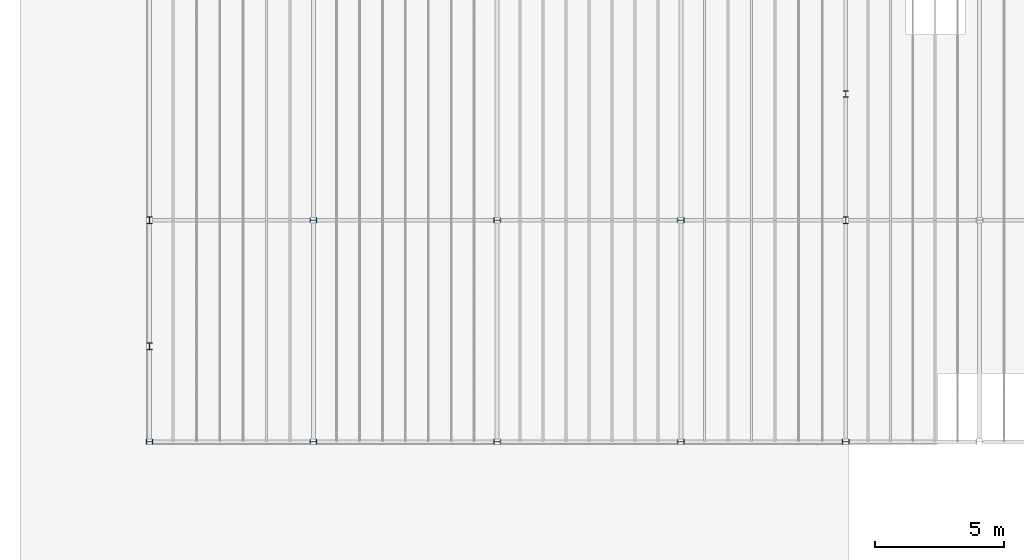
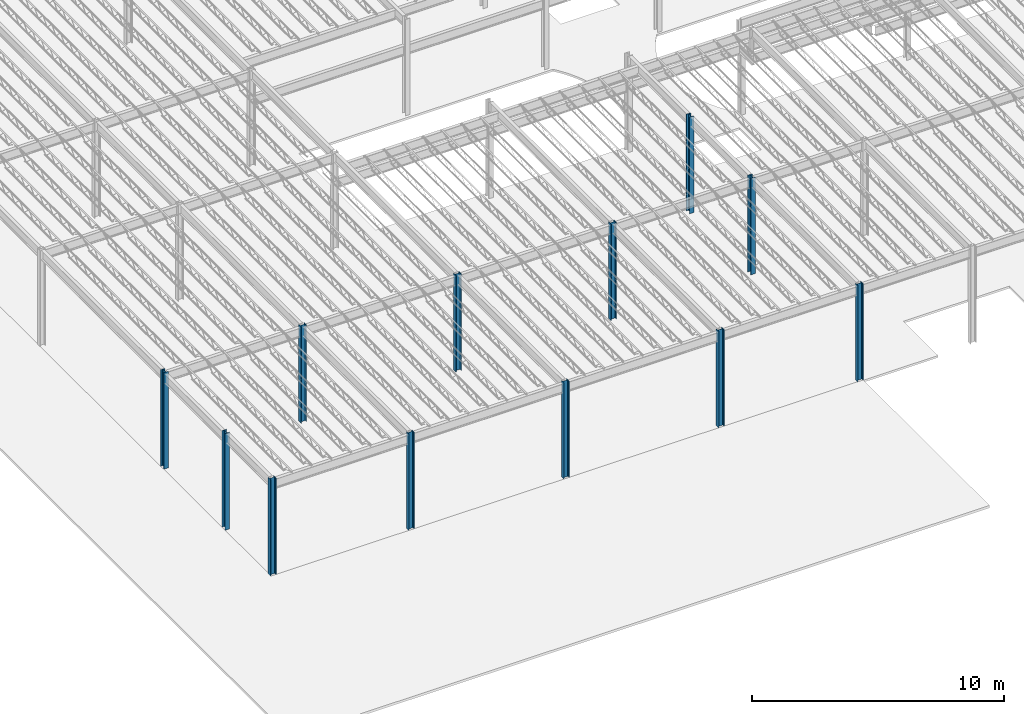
# One storey, part 1 of 119: 12 columns.
"""IFC2X3 building model written with IfcOpenShell, lengths in metres."""

from ifc_helpers import new_model, entity, si_unit, converted_unit, frame, frame_2d, origin, place, context, project, spatial, polyline, circle_curve, parameter, trimmed, segment, composite_curve, outline, extrude, source, transform, mapped, material, type_object, type_shapes, element, save


model = new_model("IFC2X3")

# Units and contexts
model_context = context("Model", 3, precision=1e-09, world=origin())
plan_context = context("Plan", 3, precision=1e-09, world=origin())
ifc_project = project(units=[si_unit("LENGTHUNIT", "METRE"), si_unit("AREAUNIT", "SQUARE_METRE"), si_unit("VOLUMEUNIT", "CUBIC_METRE"), converted_unit("PLANEANGLEUNIT", "DEGREE", entity("IfcRatioMeasure", 0.01745329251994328), si_unit("PLANEANGLEUNIT", "RADIAN"), dimensions=[0, 0, 0, 0, 0, 0, 0]), si_unit("TIMEUNIT", "SECOND")], contexts=[model_context, plan_context])

# Site, building, storey
site_placement = place(None, origin())
site = spatial("IfcSite", under=ifc_project, at=site_placement, Name="Default", CompositionType="ELEMENT")
building_placement = place(site_placement, origin())
building = spatial("IfcBuilding", under=site, at=building_placement, CompositionType="ELEMENT")
storey_placement = place(building_placement, frame((0.0, 0.0, 4.570000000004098)))
storey = spatial("IfcBuildingStorey", under=building, at=storey_placement, Name="Second Floor", CompositionType="ELEMENT", Elevation=4.570000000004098)

# Columns
ifc_material = material(Name="Metal - Steel - 345 MPa")
column_type = type_object("IfcColumnType", Name="W250X67", PredefinedType="COLUMN")
shared_shape = source(origin(), model_context, "Body", "SweptSolid", [
    extrude(outline(composite_curve([segment(polyline([(-0.102, -0.1285), (0.102, -0.1285)]), True, "CONTINUOUS"), segment(polyline([(0.102, -0.1285), (0.102, -0.1128)]), True, "CONTINUOUS"), segment(polyline([(0.102, -0.1128), (0.02174999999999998, -0.1128)]), True, "CONTINUOUS"), segment(trimmed(circle_curve(frame_2d((0.02174999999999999, -0.09549999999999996), x_axis=(-1.0, 0.0)), 0.0173), [parameter(4.071109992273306e-13)], [parameter(90.00000000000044)], True, "PARAMETER"), False, "CONTINUOUS"), segment(polyline([(0.004449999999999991, -0.09549999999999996), (0.004449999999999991, 0.09549999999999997)]), True, "CONTINUOUS"), segment(trimmed(circle_curve(frame_2d((0.02174999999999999, 0.09549999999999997), x_axis=(-1.0, 0.0)), 0.0173), [parameter(270.0000000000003)], [parameter(3.562221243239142e-13)], True, "PARAMETER"), False, "CONTINUOUS"), segment(polyline([(0.02174999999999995, 0.1128), (0.102, 0.1128)]), True, "CONTINUOUS"), segment(polyline([(0.102, 0.1128), (0.102, 0.1285)]), True, "CONTINUOUS"), segment(polyline([(0.102, 0.1285), (-0.102, 0.1285)]), True, "CONTINUOUS"), segment(polyline([(-0.102, 0.1285), (-0.102, 0.1128)]), True, "CONTINUOUS"), segment(polyline([(-0.102, 0.1128), (-0.02174999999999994, 0.1128)]), True, "CONTINUOUS"), segment(trimmed(circle_curve(frame_2d((-0.02175000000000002, 0.09549999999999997), x_axis=(-1.0, 0.0)), 0.0173), [parameter(179.9999999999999)], [parameter(269.9999999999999)], True, "PARAMETER"), False, "CONTINUOUS"), segment(polyline([(-0.004450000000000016, 0.09550000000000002), (-0.004450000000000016, -0.09549999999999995)]), True, "CONTINUOUS"), segment(trimmed(circle_curve(frame_2d((-0.02175000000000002, -0.09549999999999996), x_axis=(-1.0, 0.0)), 0.0173), [parameter(90.00000000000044)], [parameter(180.0000000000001)], True, "PARAMETER"), False, "CONTINUOUS"), segment(polyline([(-0.02175000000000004, -0.1128), (-0.102, -0.1128)]), True, "CONTINUOUS"), segment(polyline([(-0.102, -0.1128), (-0.102, -0.1285)]), True, "CONTINUOUS")], self_intersect=False)), frame((0.0, 0.0, 4.570000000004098), z_axis=(0.0, 0.0, 1.0), x_axis=(-1.0, 0.0, 0.0)), (0.0, 0.0, 1.0), 4.679999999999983),
])
type_shapes(column_type, [shared_shape])
column_1_placement = place(storey_placement, frame((-47.0, 13.73439520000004, -4.570000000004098)))
element("IfcColumn", 1, at=column_1_placement, inside=storey, type_object=column_type, material=ifc_material, Name="M_W-Wide Flange-Column:W250X67:W250X67", ObjectType="W250X67", context=model_context, shape_type="MappedRepresentation", body=[
    mapped(shared_shape, transform((0.0, 0.0, 0.0), scale=1.0)),
])
for number, where, z_axis, x_axis in (
    (2, (-40.66000000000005, 18.61000000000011, -4.570000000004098), (0.0, 0.0, 1.0), (0.0, 1.0, 0.0)),
    (3, (-40.66000000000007, 10.04000000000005, -4.570000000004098), (0.0, 0.0, 1.0), (0.0, -1.0, 0.0)),
    (4, (-20.06000000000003, 10.03999999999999, -4.570000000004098), (0.0, 0.0, 1.0), (0.0, -1.0, 0.0)),
    (5, (-33.55000000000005, 18.61000000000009, -4.570000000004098), (0.0, 0.0, 1.0), (0.0, 1.0, 0.0)),
):
    element("IfcColumn", number, at=place(storey_placement, frame(where, z_axis=z_axis, x_axis=x_axis)), inside=storey, type_object=column_type, material=ifc_material, Name="M_W-Wide Flange-Column:W250X67:W250X67", ObjectType="W250X67", context=model_context, shape_type="MappedRepresentation", body=[
        mapped(shared_shape, transform((0.0, 0.0, 0.0), scale=1.0)),
    ])
column_2_placement = place(storey_placement, frame((-20.06000000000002, 18.61000000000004, -4.570000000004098)))
element("IfcColumn", 6, at=column_2_placement, inside=storey, type_object=column_type, material=ifc_material, Name="M_W-Wide Flange-Column:W250X67:W250X67", ObjectType="W250X67", context=model_context, shape_type="MappedRepresentation", body=[
    mapped(shared_shape, transform((0.0, 0.0, 0.0), scale=1.0)),
])
column_3_placement = place(storey_placement, frame((-33.55000000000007, 10.04000000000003, -4.570000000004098), z_axis=(0.0, 0.0, 1.0), x_axis=(0.0, -1.0, 0.0)))
element("IfcColumn", 7, at=column_3_placement, inside=storey, type_object=column_type, material=ifc_material, Name="M_W-Wide Flange-Column:W250X67:W250X67", ObjectType="W250X67", context=model_context, shape_type="MappedRepresentation", body=[
    mapped(shared_shape, transform((0.0, 0.0, 0.0), scale=1.0)),
])
column_4_placement = place(storey_placement, frame((-20.06000000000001, 23.49409120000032, -4.570000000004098)))
element("IfcColumn", 8, at=column_4_placement, inside=storey, type_object=column_type, material=ifc_material, Name="M_W-Wide Flange-Column:W250X67:W250X67", ObjectType="W250X67", context=model_context, shape_type="MappedRepresentation", body=[
    mapped(shared_shape, transform((0.0, 0.0, 0.0), scale=1.0)),
])
for number, where, z_axis, x_axis in (
    (9, (-26.44000000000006, 18.61000000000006, -4.570000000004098), (0.0, 0.0, 1.0), (0.0, 1.0, 0.0)),
    (10, (-26.44000000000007, 10.04, -4.570000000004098), (0.0, 0.0, 1.0), (0.0, -1.0, 0.0)),
    (11, (-47.0, 10.04000000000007, -4.570000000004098), (0.0, 0.0, 1.0), (0.0, -1.0, 0.0)),
):
    element("IfcColumn", number, at=place(storey_placement, frame(where, z_axis=z_axis, x_axis=x_axis)), inside=storey, type_object=column_type, material=ifc_material, Name="M_W-Wide Flange-Column:W250X67:W250X67", ObjectType="W250X67", context=model_context, shape_type="MappedRepresentation", body=[
        mapped(shared_shape, transform((0.0, 0.0, 0.0), scale=1.0)),
    ])
column_5_placement = place(storey_placement, frame((-47.0, 18.61000000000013, -4.570000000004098)))
element("IfcColumn", 12, at=column_5_placement, inside=storey, type_object=column_type, material=ifc_material, Name="M_W-Wide Flange-Column:W250X67:W250X67", ObjectType="W250X67", context=model_context, shape_type="MappedRepresentation", body=[
    mapped(shared_shape, transform((0.0, 0.0, 0.0), scale=1.0)),
])

save(model, "model.ifc")
